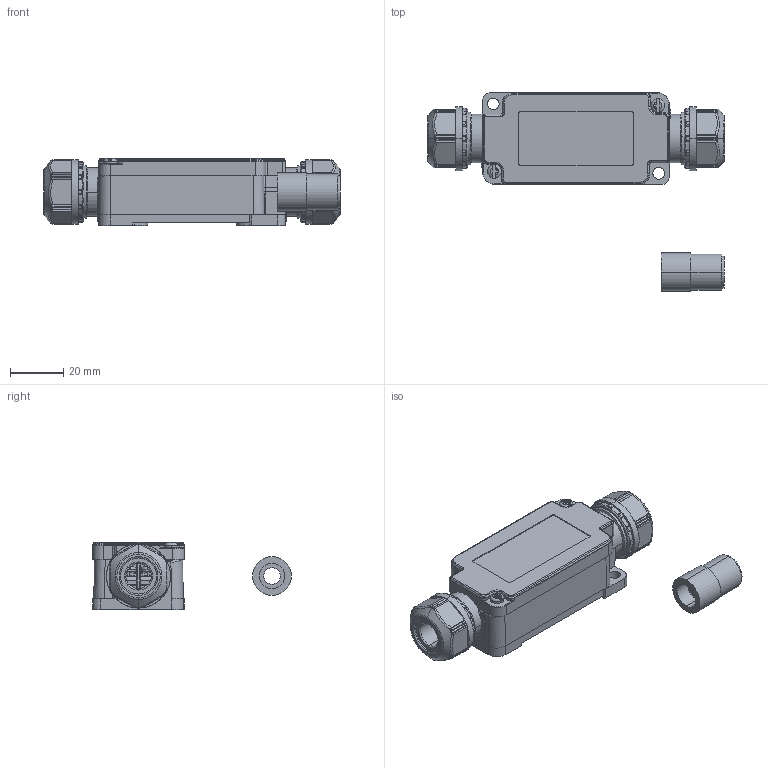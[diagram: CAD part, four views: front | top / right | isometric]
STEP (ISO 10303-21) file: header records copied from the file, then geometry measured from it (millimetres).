
FILE_DESCRIPTION(('Creo Elements/Direct Modeling STEP Export'),'2;1');
FILE_NAME('H15-0032-CL901-00_JB-WST304.stp','2016-10-03T17:38:35',(''),(''),'PTC Creo Elements/Direct Modeling STEP processor for AP214 (Solid Model)','PTC Creo Elements/Direct Modeling 19.0C 15-Aug-2015 (C) Parametric Technology GmbH','');
FILE_SCHEMA(('AUTOMOTIVE_DESIGN { 1 0 10303 214 1 1 1 1 }'));
Length unit declared in the file: millimetre
Products named in the file (12): OA-W1609_ゴムブッシュ; OA-QW11S-3_ゴムブッシュ; JB-WST304_付属品; JB-WST304_フタ; JB-W3※※_フタ固定ねじ.1; JB-WST304_フタ部; JB-WST304_本体; OA-W16-402_ゴムブッシュ; フリー端子ねじ_M3x8_5．8\X2\89D25EA7\X0
\_鉄_三価C.1; JB-WST304_本体部; JB-WST304_組立品; JB-WST304
Assembly tree (20 placements, depth 4):
  JB-WST304
    JB-WST304_組立品
      JB-WST304_本体部
        フリー端子ねじ_M3x8_5．8\X2\89D25EA7\X0
\_鉄_三価C.1  x8
        OA-W16-402_ゴムブッシュ
        OA-W1609_ゴムブッシュ
        JB-WST304_本体
      JB-WST304_フタ部
        JB-W3※※_フタ固定ねじ.1  x2
        JB-WST304_フタ
    JB-WST304_付属品
      OA-QW11S-3_ゴムブッシュ
      OA-W1609_ゴムブッシュ
Bounding box: 111.06 x 74.45 x 25.1 mm (x, y, z)
Volume: 47366.3 mm3; surface area: 35631.7 mm2
Topology: 16 solids, 16 shells, 2379 faces, 6240 edges, 3930 vertices
Faces by surface type: plane 1277, cylinder 622, torus 186, bspline 170, cone 76, sphere 48
Entity records: 64640 total; most frequent: CARTESIAN_POINT 21943, ORIENTED_EDGE 9420, DIRECTION 7870, EDGE_CURVE 4710, VERTEX_POINT 2936, VECTOR 2716, LINE 2716, AXIS2_PLACEMENT_3D 2577
